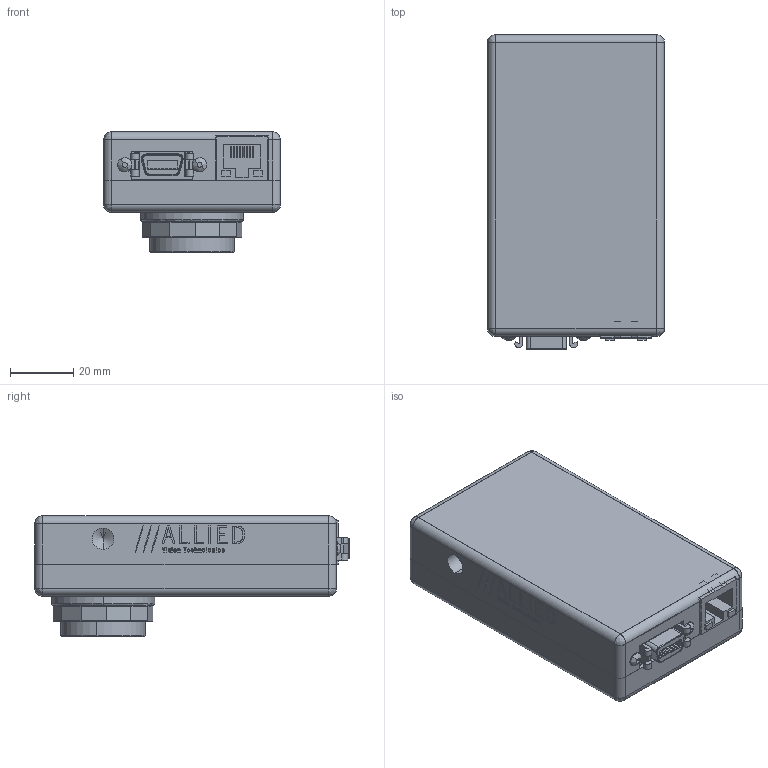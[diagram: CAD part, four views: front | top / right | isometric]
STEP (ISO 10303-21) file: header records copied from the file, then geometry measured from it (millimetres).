
FILE_DESCRIPTION (( 'STEP AP214' ), '1' );
FILE_NAME ('GS650.STEP', '2013-07-31T20:10:35', ( '' ), ( '' ), 'SwSTEP 2.0', 'SolidWorks 2013', '' );
FILE_SCHEMA (( 'AUTOMOTIVE_DESIGN' ));
Length unit declared in the file: millimetre
Products named in the file (22): 260036-HALO HFJ11-1G16E-L12RL; 260039-3M 10214-55G3PC; 110078A-GB MOUNT; 220073-SONY ICX424AL; SONY ICX424 BODY; SONY ICX424 WINDOW; 110094A-GB CCD GASKET; 140008-washer spring lock #4; 140027-SCREW BUTTON M3x6 SS; 140057-SCREW BUTTON SKT CAP M2.5X10 SS; 110090B-GS BACK RA_Default Logo; 140056-SCREW SOCKET CAP HEX M2.5X10 BLACK; 110089A-GS FRONT; 740084B-GS SERIES LABEL; 740089-GS650 LABEL PRINT; 140059-EMI GASKET FOR GS; 140055-WASHER SPRING LOCK M2.5 BLACK; GS650; 02-2200B-GB650; 110003AC-CV CMOUNT RING; 110031A-B EC-CCD LOCKING RING; 200081B-GB1380-650-LS-RA
Assembly tree (30 placements, depth 4):
  GS650
    740089-GS650 LABEL PRINT
    140056-SCREW SOCKET CAP HEX M2.5X10 BLACK  x4
    110090B-GS BACK RA_Default Logo
    140057-SCREW BUTTON SKT CAP M2.5X10 SS  x2
    02-2200B-GB650
      140027-SCREW BUTTON M3x6 SS  x2
      140008-washer spring lock #4  x2
      110094A-GB CCD GASKET
      220073-SONY ICX424AL
        SONY ICX424 WINDOW
        SONY ICX424 BODY
      110078A-GB MOUNT
      200081B-GB1380-650-LS-RA
        260039-3M 10214-55G3PC
        260036-HALO HFJ11-1G16E-L12RL
      110031A-B EC-CCD LOCKING RING
      110003AC-CV CMOUNT RING
    140055-WASHER SPRING LOCK M2.5 BLACK  x4
    140059-EMI GASKET FOR GS
    740084B-GS SERIES LABEL
    110089A-GS FRONT
Bounding box: 55.88 x 99.31 x 38.09 mm (x, y, z)
Volume: 56572.1 mm3; surface area: 72358 mm2
Topology: 86 solids, 86 shells, 3561 faces, 9219 edges, 5998 vertices
Faces by surface type: plane 2040, bspline 853, cylinder 466, cone 202
Entity records: 174298 total; most frequent: CARTESIAN_POINT 55703, ORIENTED_EDGE 17806, DIRECTION 13498, EDGE_CURVE 8903, LINE 6160, VECTOR 6160, VERTEX_POINT 5829, EDGE_LOOP 3762
